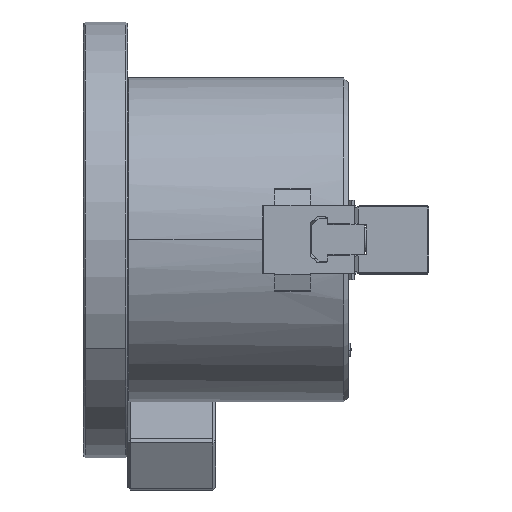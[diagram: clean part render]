
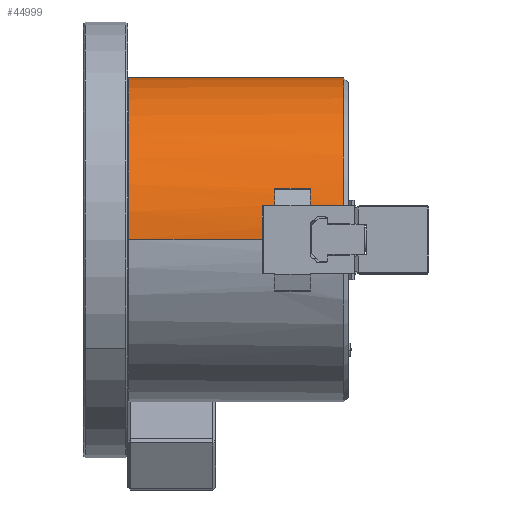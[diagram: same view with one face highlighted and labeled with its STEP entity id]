
A CAD part, top view. The second image highlights one B-rep face of the part: STEP entity #44999.
In plain terms, the highlighted cylindrical face has radius 55 mm (diameter 110 mm), a partial arc.
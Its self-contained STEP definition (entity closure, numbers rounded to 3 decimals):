
#458 = CYLINDRICAL_SURFACE ( 'NONE', #33530, 55. ) ;
#568 = VECTOR ( 'NONE', #34199, 1000. ) ;
#1086 = CARTESIAN_POINT ( 'NONE',  ( -29.2, 0., -55. ) ) ;
#1305 = LINE ( 'NONE', #52729, #568 ) ;
#1408 = VERTEX_POINT ( 'NONE', #25911 ) ;
#2368 = EDGE_CURVE ( 'NONE', #28487, #23378, #30569, .T. ) ;
#3388 = DIRECTION ( 'NONE',  ( -1., 0., 0. ) ) ;
#3848 = VERTEX_POINT ( 'NONE', #18848 ) ;
#4250 = DIRECTION ( 'NONE',  ( 1., 0., 0. ) ) ;
#4540 = VERTEX_POINT ( 'NONE', #50410 ) ;
#5351 = ORIENTED_EDGE ( 'NONE', *, *, #12177, .T. ) ;
#6010 = VECTOR ( 'NONE', #56464, 1000. ) ;
#6059 = DIRECTION ( 'NONE',  ( -1., 0., 0. ) ) ;
#6675 = DIRECTION ( 'NONE',  ( 0., 0., 1. ) ) ;
#7096 = VECTOR ( 'NONE', #4250, 1000. ) ;
#7406 = CIRCLE ( 'NONE', #21955, 55. ) ;
#7729 = LINE ( 'NONE', #23056, #7096 ) ;
#7802 = CIRCLE ( 'NONE', #55278, 55. ) ;
#7948 = DIRECTION ( 'NONE',  ( -1., 0., 0. ) ) ;
#8025 = VECTOR ( 'NONE', #44819, 1000. ) ;
#9012 = CARTESIAN_POINT ( 'NONE',  ( -29.2, 0., 0. ) ) ;
#9098 = EDGE_CURVE ( 'NONE', #28152, #26324, #1305, .T. ) ;
#9145 = VERTEX_POINT ( 'NONE', #48294 ) ;
#9779 = ORIENTED_EDGE ( 'NONE', *, *, #50993, .T. ) ;
#10673 = DIRECTION ( 'NONE',  ( 0., 0., 1. ) ) ;
#11058 = DIRECTION ( 'NONE',  ( 0., 0., -1. ) ) ;
#12016 = CARTESIAN_POINT ( 'NONE',  ( -13., 17.5, 52.142 ) ) ;
#12177 = EDGE_CURVE ( 'NONE', #47622, #25767, #7406, .T. ) ;
#12717 = FACE_OUTER_BOUND ( 'NONE', #27898, .T. ) ;
#13041 = ORIENTED_EDGE ( 'NONE', *, *, #14660, .T. ) ;
#13191 = AXIS2_PLACEMENT_3D ( 'NONE', #46862, #27722, #28310 ) ;
#13252 = AXIS2_PLACEMENT_3D ( 'NONE', #43589, #20413, #6675 ) ;
#13653 = ORIENTED_EDGE ( 'NONE', *, *, #23353, .T. ) ;
#14660 = EDGE_CURVE ( 'NONE', #28487, #4540, #34115, .T. ) ;
#15779 = VECTOR ( 'NONE', #44974, 1000. ) ;
#16915 = ORIENTED_EDGE ( 'NONE', *, *, #58459, .F. ) ;
#17335 = CARTESIAN_POINT ( 'NONE',  ( -25., 17.5, -52.142 ) ) ;
#18283 = CARTESIAN_POINT ( 'NONE',  ( -25., 17.5, 52.142 ) ) ;
#18848 = CARTESIAN_POINT ( 'NONE',  ( -13., 17.5, -52.142 ) ) ;
#19182 = CARTESIAN_POINT ( 'NONE',  ( -83.705, 0., 55. ) ) ;
#20398 = CARTESIAN_POINT ( 'NONE',  ( -1.6, 0., 0. ) ) ;
#20413 = DIRECTION ( 'NONE',  ( -1., 0., 0. ) ) ;
#20579 = CARTESIAN_POINT ( 'NONE',  ( -29.2, 0., 55. ) ) ;
#20583 = CIRCLE ( 'NONE', #45725, 55. ) ;
#20952 = EDGE_CURVE ( 'NONE', #3848, #47622, #33301, .T. ) ;
#21521 = VERTEX_POINT ( 'NONE', #40499 ) ;
#21955 = AXIS2_PLACEMENT_3D ( 'NONE', #50426, #54875, #36727 ) ;
#22075 = ORIENTED_EDGE ( 'NONE', *, *, #20952, .T. ) ;
#22616 = VERTEX_POINT ( 'NONE', #1086 ) ;
#22985 = EDGE_CURVE ( 'NONE', #54867, #39660, #7729, .T. ) ;
#23056 = CARTESIAN_POINT ( 'NONE',  ( -83.705, 17.5, 52.142 ) ) ;
#23353 = EDGE_CURVE ( 'NONE', #26324, #21521, #7802, .T. ) ;
#23378 = VERTEX_POINT ( 'NONE', #29867 ) ;
#23482 = CIRCLE ( 'NONE', #42982, 55. ) ;
#23999 = ORIENTED_EDGE ( 'NONE', *, *, #35894, .T. ) ;
#24974 = DIRECTION ( 'NONE',  ( -1., 0., 0. ) ) ;
#25063 = EDGE_CURVE ( 'NONE', #3848, #57790, #23482, .T. ) ;
#25689 = CARTESIAN_POINT ( 'NONE',  ( -83.705, 0., -55. ) ) ;
#25767 = VERTEX_POINT ( 'NONE', #59688 ) ;
#25911 = CARTESIAN_POINT ( 'NONE',  ( -25., 11.5, 53.784 ) ) ;
#26324 = VERTEX_POINT ( 'NONE', #27410 ) ;
#27410 = CARTESIAN_POINT ( 'NONE',  ( -1.6, 11.5, 53.784 ) ) ;
#27722 = DIRECTION ( 'NONE',  ( -1., 0., 0. ) ) ;
#27898 = EDGE_LOOP ( 'NONE', ( #9779, #39345, #44937, #45685, #13041, #54648, #33395, #53671, #16915, #53801, #13653, #23999, #52692, #22075, #5351, #37396 ) ) ;
#27954 = DIRECTION ( 'NONE',  ( -1., 0., 0. ) ) ;
#28152 = VERTEX_POINT ( 'NONE', #59725 ) ;
#28310 = DIRECTION ( 'NONE',  ( 0., 0., -1. ) ) ;
#28487 = VERTEX_POINT ( 'NONE', #20579 ) ;
#29011 = CARTESIAN_POINT ( 'NONE',  ( -29.2, 11.5, -53.784 ) ) ;
#29626 = CIRCLE ( 'NONE', #13191, 55. ) ;
#29867 = CARTESIAN_POINT ( 'NONE',  ( -74.6, 0., 55. ) ) ;
#30569 = LINE ( 'NONE', #19182, #6010 ) ;
#30704 = CARTESIAN_POINT ( 'NONE',  ( -83.705, 17.5, -52.142 ) ) ;
#31170 = DIRECTION ( 'NONE',  ( 0., 0., -1. ) ) ;
#31275 = DIRECTION ( 'NONE',  ( 0., 0., -1. ) ) ;
#32107 = EDGE_CURVE ( 'NONE', #22616, #9145, #38721, .T. ) ;
#32249 = DIRECTION ( 'NONE',  ( -1., 0., 0. ) ) ;
#32801 = CARTESIAN_POINT ( 'NONE',  ( -83.705, 0., 0. ) ) ;
#32937 = AXIS2_PLACEMENT_3D ( 'NONE', #45002, #3388, #31275 ) ;
#33301 = LINE ( 'NONE', #30704, #8025 ) ;
#33395 = ORIENTED_EDGE ( 'NONE', *, *, #33872, .T. ) ;
#33530 = AXIS2_PLACEMENT_3D ( 'NONE', #32801, #27954, #37212 ) ;
#33872 = EDGE_CURVE ( 'NONE', #1408, #54867, #29626, .T. ) ;
#34115 = CIRCLE ( 'NONE', #42998, 55. ) ;
#34167 = CIRCLE ( 'NONE', #32937, 55. ) ;
#34199 = DIRECTION ( 'NONE',  ( 1., 0., 0. ) ) ;
#34955 = CARTESIAN_POINT ( 'NONE',  ( -13., 0., 0. ) ) ;
#35615 = EDGE_CURVE ( 'NONE', #25767, #51806, #52581, .T. ) ;
#35894 = EDGE_CURVE ( 'NONE', #21521, #57790, #45337, .T. ) ;
#36727 = DIRECTION ( 'NONE',  ( 0., 0., -1. ) ) ;
#37212 = DIRECTION ( 'NONE',  ( 0., 0., 1. ) ) ;
#37396 = ORIENTED_EDGE ( 'NONE', *, *, #35615, .T. ) ;
#37796 = CIRCLE ( 'NONE', #13252, 55. ) ;
#38721 = LINE ( 'NONE', #25689, #40893 ) ;
#39345 = ORIENTED_EDGE ( 'NONE', *, *, #32107, .T. ) ;
#39583 = DIRECTION ( 'NONE',  ( -1., 0., 0. ) ) ;
#39660 = VERTEX_POINT ( 'NONE', #12016 ) ;
#40328 = CARTESIAN_POINT ( 'NONE',  ( -83.705, 11.5, 53.784 ) ) ;
#40499 = CARTESIAN_POINT ( 'NONE',  ( -1.6, 11.5, -53.784 ) ) ;
#40893 = VECTOR ( 'NONE', #39583, 1000. ) ;
#40904 = CARTESIAN_POINT ( 'NONE',  ( -83.705, 11.5, -53.784 ) ) ;
#40905 = DIRECTION ( 'NONE',  ( 0., 0., -1. ) ) ;
#42982 = AXIS2_PLACEMENT_3D ( 'NONE', #34955, #7948, #31170 ) ;
#42998 = AXIS2_PLACEMENT_3D ( 'NONE', #9012, #32249, #40905 ) ;
#43589 = CARTESIAN_POINT ( 'NONE',  ( -74.6, 0., 0. ) ) ;
#44819 = DIRECTION ( 'NONE',  ( -1., 0., 0. ) ) ;
#44937 = ORIENTED_EDGE ( 'NONE', *, *, #51354, .F. ) ;
#44974 = DIRECTION ( 'NONE',  ( -1., 0., 0. ) ) ;
#44999 = ADVANCED_FACE ( 'NONE', ( #12717 ), #458, .T. ) ;
#45002 = CARTESIAN_POINT ( 'NONE',  ( -13., 0., 0. ) ) ;
#45022 = VECTOR ( 'NONE', #49598, 1000. ) ;
#45337 = LINE ( 'NONE', #52379, #46100 ) ;
#45685 = ORIENTED_EDGE ( 'NONE', *, *, #2368, .F. ) ;
#45725 = AXIS2_PLACEMENT_3D ( 'NONE', #57269, #48572, #11058 ) ;
#46100 = VECTOR ( 'NONE', #24974, 1000. ) ;
#46862 = CARTESIAN_POINT ( 'NONE',  ( -25., 0., 0. ) ) ;
#47622 = VERTEX_POINT ( 'NONE', #17335 ) ;
#48294 = CARTESIAN_POINT ( 'NONE',  ( -74.6, 0., -55. ) ) ;
#48572 = DIRECTION ( 'NONE',  ( -1., 0., 0. ) ) ;
#48669 = CARTESIAN_POINT ( 'NONE',  ( -13., 11.5, -53.784 ) ) ;
#49598 = DIRECTION ( 'NONE',  ( 1., 0., 0. ) ) ;
#50410 = CARTESIAN_POINT ( 'NONE',  ( -29.2, 11.5, 53.784 ) ) ;
#50426 = CARTESIAN_POINT ( 'NONE',  ( -25., 0., 0. ) ) ;
#50993 = EDGE_CURVE ( 'NONE', #51806, #22616, #20583, .T. ) ;
#51354 = EDGE_CURVE ( 'NONE', #23378, #9145, #37796, .T. ) ;
#51806 = VERTEX_POINT ( 'NONE', #29011 ) ;
#52379 = CARTESIAN_POINT ( 'NONE',  ( -83.705, 11.5, -53.784 ) ) ;
#52581 = LINE ( 'NONE', #40904, #15779 ) ;
#52692 = ORIENTED_EDGE ( 'NONE', *, *, #25063, .F. ) ;
#52729 = CARTESIAN_POINT ( 'NONE',  ( -83.705, 11.5, 53.784 ) ) ;
#53671 = ORIENTED_EDGE ( 'NONE', *, *, #22985, .T. ) ;
#53801 = ORIENTED_EDGE ( 'NONE', *, *, #9098, .T. ) ;
#54648 = ORIENTED_EDGE ( 'NONE', *, *, #58463, .T. ) ;
#54867 = VERTEX_POINT ( 'NONE', #18283 ) ;
#54875 = DIRECTION ( 'NONE',  ( -1., 0., 0. ) ) ;
#55278 = AXIS2_PLACEMENT_3D ( 'NONE', #20398, #6059, #10673 ) ;
#56464 = DIRECTION ( 'NONE',  ( -1., 0., 0. ) ) ;
#57263 = LINE ( 'NONE', #40328, #45022 ) ;
#57269 = CARTESIAN_POINT ( 'NONE',  ( -29.2, 0., 0. ) ) ;
#57790 = VERTEX_POINT ( 'NONE', #48669 ) ;
#58459 = EDGE_CURVE ( 'NONE', #28152, #39660, #34167, .T. ) ;
#58463 = EDGE_CURVE ( 'NONE', #4540, #1408, #57263, .T. ) ;
#59688 = CARTESIAN_POINT ( 'NONE',  ( -25., 11.5, -53.784 ) ) ;
#59725 = CARTESIAN_POINT ( 'NONE',  ( -13., 11.5, 53.784 ) ) ;
